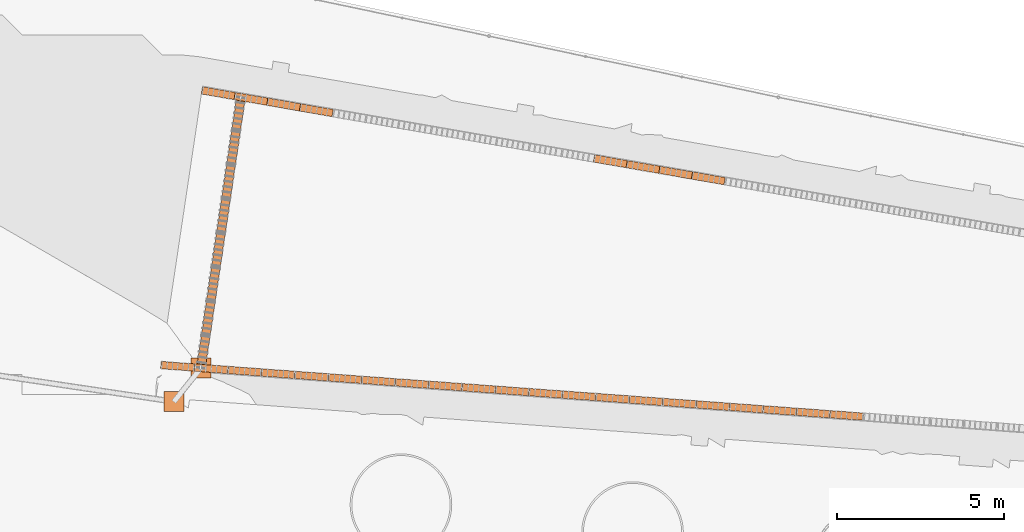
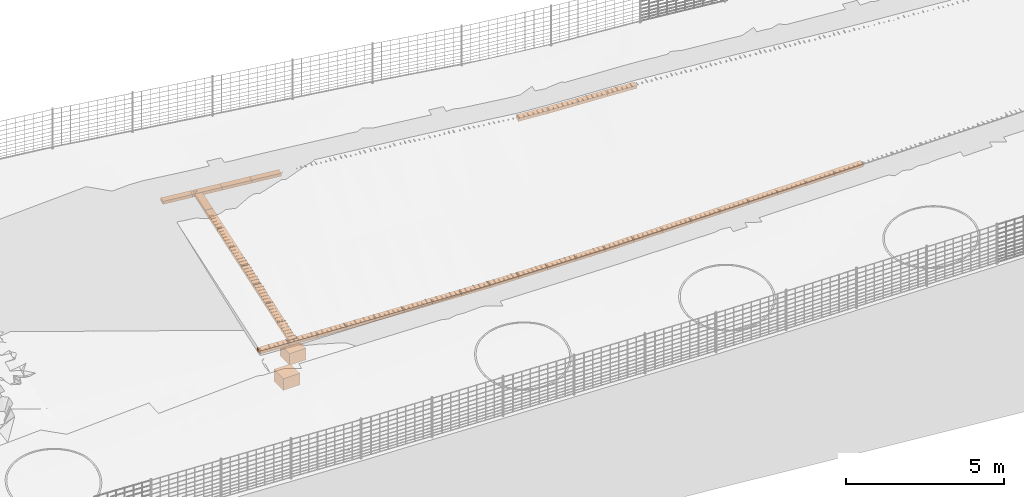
# Not in any storey, part 59 of 72: 39 proxies.
"""IFC4 model written with IfcOpenShell, lengths in metres."""

from ifc_helpers import new_model, si_unit, direction, frame, origin_with_axes, place, context, subcontext, project, spatial, polyline, outline, extrude, polygons, material, element, save


model = new_model("IFC4")

# Units and contexts
model_context = context("Model", 3, precision=1e-05, world=origin_with_axes(), true_north=direction((0.0, 1.0)))
body_context = subcontext(model_context, "Body", "Model", "MODEL_VIEW")
ifc_project = project(units=[si_unit("AREAUNIT", "SQUARE_METRE"), si_unit("VOLUMEUNIT", "CUBIC_METRE"), si_unit("LENGTHUNIT", "METRE")], contexts=[model_context])

# Site
site_placement = place(None, origin_with_axes())
site = spatial("IfcSite", under=ifc_project, at=site_placement, Name="Lares · Rua das Mercês · artigo 4771")

# Proxies
ifc_material_1 = material(Name="Brita drenante", Category="stone")
proxy_1_placement = place(site_placement, frame((0.0, 0.0, 0.0), z_axis=(0.0, 0.0, 1.0), x_axis=(1.0, -1.03767253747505e-17, 0.0)))
element("IfcBuildingElementProxy", 1, at=proxy_1_placement, inside=site, material=ifc_material_1, Name="Acesso · dreno lateral raso · leito drenante", ObjectType="Acesso · dreno lateral raso · leito drenante", PredefinedType="USERDEFINED", context=body_context, shape_type="Tessellation", body=[
    polygons([(46.6482466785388, 3.22123674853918, 14.3686), (46.6643740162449, 3.44064483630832, 14.3686), (47.6685459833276, 3.36683433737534, 14.37386763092), (47.6524186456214, 3.14742624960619, 14.37386763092), (46.6482466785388, 3.22123674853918, 14.4836), (46.6643740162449, 3.44064483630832, 14.4836), (47.6685459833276, 3.36683433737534, 14.48886763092), (47.6524186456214, 3.14742624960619, 14.48886763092)], [[[4, 3, 2, 1]], [[5, 6, 7, 8]], [[1, 2, 6, 5]], [[2, 3, 7, 6]], [[3, 4, 8, 7]], [[4, 1, 5, 8]]]),
])
proxy_2_placement = place(site_placement, frame((0.0, 0.0, 0.0), z_axis=(0.0, 0.0, 1.0), x_axis=(1.0, -1.03767253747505e-17, 0.0)))
element("IfcBuildingElementProxy", 2, at=proxy_2_placement, inside=site, material=ifc_material_1, Name="Acesso · dreno lateral raso · leito drenante", ObjectType="Acesso · dreno lateral raso · leito drenante", PredefinedType="USERDEFINED", context=body_context, shape_type="Tessellation", body=[
    polygons([(47.6524186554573, 3.14742624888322, 14.37386763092), (47.6685459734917, 3.36683433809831, 14.37386763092), (48.6727146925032, 3.29302416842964, 14.3809826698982), (48.6565873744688, 3.07361607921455, 14.3809826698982), (47.6524186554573, 3.14742624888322, 14.48886763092), (47.6685459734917, 3.36683433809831, 14.48886763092), (48.6727146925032, 3.29302416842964, 14.4959826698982), (48.6565873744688, 3.07361607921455, 14.4959826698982)], [[[4, 3, 2, 1]], [[5, 6, 7, 8]], [[1, 2, 6, 5]], [[2, 3, 7, 6]], [[3, 4, 8, 7]], [[4, 1, 5, 8]]]),
])
proxy_3_placement = place(site_placement, frame((0.0, 0.0, 0.0), z_axis=(0.0, 0.0, 1.0), x_axis=(1.0, -1.03767253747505e-17, 0.0)))
element("IfcBuildingElementProxy", 3, at=proxy_3_placement, inside=site, material=ifc_material_1, Name="Acesso · dreno lateral raso · leito drenante", ObjectType="Acesso · dreno lateral raso · leito drenante", PredefinedType="USERDEFINED", context=body_context, shape_type="Tessellation", body=[
    polygons([(48.656587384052, 3.07361607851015, 14.3809826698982), (48.67271468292, 3.29302416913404, 14.3809826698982), (49.6768800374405, 3.2192143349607, 14.3899451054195), (49.6607527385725, 2.99980624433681, 14.3899451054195), (48.656587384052, 3.07361607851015, 14.4959826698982), (48.67271468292, 3.29302416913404, 14.4959826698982), (49.6768800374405, 3.2192143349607, 14.5049451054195), (49.6607527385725, 2.99980624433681, 14.5049451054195)], [[[4, 3, 2, 1]], [[5, 6, 7, 8]], [[1, 2, 6, 5]], [[2, 3, 7, 6]], [[3, 4, 8, 7]], [[4, 1, 5, 8]]]),
])
proxy_4_placement = place(site_placement, frame((0.0, 0.0, 0.0), z_axis=(0.0, 0.0, 1.0), x_axis=(1.0, -1.03767253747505e-17, 0.0)))
element("IfcBuildingElementProxy", 4, at=proxy_4_placement, inside=site, material=ifc_material_1, Name="Acesso · dreno lateral raso · leito drenante", ObjectType="Acesso · dreno lateral raso · leito drenante", PredefinedType="USERDEFINED", context=body_context, shape_type="Tessellation", body=[
    polygons([(49.6607527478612, 2.99980624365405, 14.3899451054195), (49.6768800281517, 3.21921433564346, 14.3899451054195), (50.6810418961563, 3.14540484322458, 14.4007549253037), (50.6649146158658, 2.92599675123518, 14.4007549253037), (49.6607527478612, 2.99980624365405, 14.5049451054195), (49.6768800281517, 3.21921433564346, 14.5049451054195), (50.6810418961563, 3.14540484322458, 14.5157549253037), (50.6649146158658, 2.92599675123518, 14.5157549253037)], [[[4, 3, 2, 1]], [[5, 6, 7, 8]], [[1, 2, 6, 5]], [[2, 3, 7, 6]], [[3, 4, 8, 7]], [[4, 1, 5, 8]]]),
])
proxy_5_placement = place(site_placement, frame((0.0, 0.0, 0.0), z_axis=(0.0, 0.0, 1.0), x_axis=(1.0, -1.03767253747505e-17, 0.0)))
element("IfcBuildingElementProxy", 5, at=proxy_5_placement, inside=site, material=ifc_material_1, Name="Acesso · dreno lateral raso · leito drenante", ObjectType="Acesso · dreno lateral raso · leito drenante", PredefinedType="USERDEFINED", context=body_context, shape_type="Tessellation", body=[
    polygons([(50.664914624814, 2.92599675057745, 14.4007549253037), (50.681041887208, 3.14540484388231, 14.4007549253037), (51.6852001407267, 3.0715956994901, 14.413412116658), (51.6690728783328, 2.85218760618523, 14.413412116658), (50.664914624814, 2.92599675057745, 14.5157549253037), (50.681041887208, 3.14540484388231, 14.5157549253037), (51.6852001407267, 3.0715956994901, 14.528412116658), (51.6690728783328, 2.85218760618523, 14.528412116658)], [[[4, 3, 2, 1]], [[5, 6, 7, 8]], [[1, 2, 6, 5]], [[2, 3, 7, 6]], [[3, 4, 8, 7]], [[4, 1, 5, 8]]]),
])
proxy_6_placement = place(site_placement, frame((0.0, 0.0, 0.0), z_axis=(0.0, 0.0, 1.0), x_axis=(1.0, -1.03767253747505e-17, 0.0)))
element("IfcBuildingElementProxy", 6, at=proxy_6_placement, inside=site, material=ifc_material_1, Name="Acesso · dreno lateral raso · leito drenante", ObjectType="Acesso · dreno lateral raso · leito drenante", PredefinedType="USERDEFINED", context=body_context, shape_type="Tessellation", body=[
    polygons([(51.6690728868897, 2.85218760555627, 14.413412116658), (51.6852001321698, 3.07159570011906, 14.413412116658), (52.6893546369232, 2.99778691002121, 14.4279166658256), (52.673227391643, 2.77837881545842, 14.4279166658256), (51.6690728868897, 2.85218760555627, 14.528412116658), (51.6852001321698, 3.07159570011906, 14.528412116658), (52.6893546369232, 2.99778691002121, 14.5429166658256), (52.673227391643, 2.77837881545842, 14.5429166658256)], [[[4, 3, 2, 1]], [[5, 6, 7, 8]], [[1, 2, 6, 5]], [[2, 3, 7, 6]], [[3, 4, 8, 7]], [[4, 1, 5, 8]]]),
])
proxy_7_placement = place(site_placement, frame((0.0, 0.0, 0.0), z_axis=(0.0, 0.0, 1.0), x_axis=(1.0, -1.03767253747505e-17, 0.0)))
element("IfcBuildingElementProxy", 7, at=proxy_7_placement, inside=site, material=ifc_material_1, Name="Acesso · dreno lateral raso · leito drenante", ObjectType="Acesso · dreno lateral raso · leito drenante", PredefinedType="USERDEFINED", context=body_context, shape_type="Tessellation", body=[
    polygons([(52.6732273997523, 2.77837881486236, 14.4279166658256), (52.6893546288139, 2.99778691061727, 14.4279166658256), (53.693505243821, 2.92397848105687, 14.4442685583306), (53.6773780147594, 2.70457038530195, 14.4442685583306), (52.6732273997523, 2.77837881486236, 14.5429166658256), (52.6893546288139, 2.99778691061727, 14.5429166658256), (53.693505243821, 2.92397848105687, 14.5592685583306), (53.6773780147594, 2.70457038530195, 14.5592685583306)], [[[4, 3, 2, 1]], [[5, 6, 7, 8]], [[1, 2, 6, 5]], [[2, 3, 7, 6]], [[3, 4, 8, 7]], [[4, 1, 5, 8]]]),
])
proxy_8_placement = place(site_placement, frame((0.0, 0.0, 0.0), z_axis=(0.0, 0.0, 1.0), x_axis=(1.0, -1.03767253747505e-17, 0.0)))
element("IfcBuildingElementProxy", 8, at=proxy_8_placement, inside=site, material=ifc_material_1, Name="Acesso · dreno lateral raso · leito drenante", ObjectType="Acesso · dreno lateral raso · leito drenante", PredefinedType="USERDEFINED", context=body_context, shape_type="Tessellation", body=[
    polygons([(53.6773780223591, 2.70457038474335, 14.4442685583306), (53.6935052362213, 2.92397848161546, 14.4442685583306), (54.6976518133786, 2.85017041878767, 14.4624677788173), (54.6815245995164, 2.63076232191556, 14.4624677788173), (53.6773780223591, 2.70457038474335, 14.5592685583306), (53.6935052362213, 2.92397848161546, 14.5592685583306), (54.6976518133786, 2.85017041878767, 14.5774677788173), (54.6815245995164, 2.63076232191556, 14.5774677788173)], [[[4, 3, 2, 1]], [[5, 6, 7, 8]], [[1, 2, 6, 5]], [[2, 3, 7, 6]], [[3, 4, 8, 7]], [[4, 1, 5, 8]]]),
])
proxy_9_placement = place(site_placement, frame((0.0, 0.0, 0.0), z_axis=(0.0, 0.0, 1.0), x_axis=(1.0, -1.03767253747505e-17, 0.0)))
element("IfcBuildingElementProxy", 9, at=proxy_9_placement, inside=site, material=ifc_material_1, Name="Acesso · dreno lateral raso · leito drenante", ObjectType="Acesso · dreno lateral raso · leito drenante", PredefinedType="USERDEFINED", context=body_context, shape_type="Tessellation", body=[
    polygons([(54.6815246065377, 2.63076232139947, 14.4624677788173), (54.6976518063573, 2.85017041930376, 14.4624677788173), (55.7017941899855, 2.77636272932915, 14.4979751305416), (55.685666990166, 2.55695463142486, 14.4979751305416), (54.6815246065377, 2.63076232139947, 14.5774677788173), (54.6976518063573, 2.85017041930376, 14.5774677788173), (55.7017941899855, 2.77636272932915, 14.6129751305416), (55.685666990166, 2.55695463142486, 14.6129751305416)], [[[4, 3, 2, 1]], [[5, 6, 7, 8]], [[1, 2, 6, 5]], [[2, 3, 7, 6]], [[3, 4, 8, 7]], [[4, 1, 5, 8]]]),
])
proxy_10_placement = place(site_placement, frame((0.0, 0.0, 0.0), z_axis=(0.0, 0.0, 1.0), x_axis=(1.0, -1.03767253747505e-17, 0.0)))
element("IfcBuildingElementProxy", 10, at=proxy_10_placement, inside=site, material=ifc_material_1, Name="Acesso · dreno lateral raso · leito drenante", ObjectType="Acesso · dreno lateral raso · leito drenante", PredefinedType="USERDEFINED", context=body_context, shape_type="Tessellation", body=[
    polygons([(55.6856669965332, 2.55695463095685, 14.4979751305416), (55.7017941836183, 2.77636272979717, 14.4979751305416), (56.7059322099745, 2.70255541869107, 14.5334823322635), (56.6898050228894, 2.48314731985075, 14.5334823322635), (55.6856669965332, 2.55695463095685, 14.6129751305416), (55.7017941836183, 2.77636272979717, 14.6129751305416), (56.7059322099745, 2.70255541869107, 14.6484823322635), (56.6898050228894, 2.48314731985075, 14.6484823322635)], [[[4, 3, 2, 1]], [[5, 6, 7, 8]], [[1, 2, 6, 5]], [[2, 3, 7, 6]], [[3, 4, 8, 7]], [[4, 1, 5, 8]]]),
])
proxy_11_placement = place(site_placement, frame((0.0, 0.0, 0.0), z_axis=(0.0, 0.0, 1.0), x_axis=(1.0, -1.03767253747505e-17, 0.0)))
element("IfcBuildingElementProxy", 11, at=proxy_11_placement, inside=site, material=ifc_material_1, Name="Acesso · dreno lateral raso · leito drenante", ObjectType="Acesso · dreno lateral raso · leito drenante", PredefinedType="USERDEFINED", context=body_context, shape_type="Tessellation", body=[
    polygons([(56.6898050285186, 2.48314731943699, 14.5334823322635), (56.7059322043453, 2.70255541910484, 14.5334823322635), (57.7100657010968, 2.62874849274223, 14.5734079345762), (57.6939385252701, 2.40934039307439, 14.5734079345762), (56.6898050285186, 2.48314731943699, 14.6484823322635), (56.7059322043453, 2.70255541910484, 14.6484823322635), (57.7100657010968, 2.62874849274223, 14.6884079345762), (57.6939385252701, 2.40934039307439, 14.6884079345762)], [[[4, 3, 2, 1]], [[5, 6, 7, 8]], [[1, 2, 6, 5]], [[2, 3, 7, 6]], [[3, 4, 8, 7]], [[4, 1, 5, 8]]]),
])
proxy_12_placement = place(site_placement, frame((0.0, 0.0, 0.0), z_axis=(0.0, 0.0, 1.0), x_axis=(1.0, -1.03767253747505e-17, 0.0)))
element("IfcBuildingElementProxy", 12, at=proxy_12_placement, inside=site, material=ifc_material_1, Name="Acesso · dreno lateral raso · leito drenante", ObjectType="Acesso · dreno lateral raso · leito drenante", PredefinedType="USERDEFINED", context=body_context, shape_type="Tessellation", body=[
    polygons([(57.6939385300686, 2.40934039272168, 14.5734079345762), (57.7100656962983, 2.62874849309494, 14.5734079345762), (58.7141944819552, 2.55494195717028, 14.6149596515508), (58.6980673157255, 2.33553385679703, 14.6149596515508), (57.6939385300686, 2.40934039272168, 14.6884079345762), (57.7100656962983, 2.62874849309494, 14.6884079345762), (58.7141944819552, 2.55494195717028, 14.7299596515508), (58.6980673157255, 2.33553385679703, 14.7299596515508)], [[[4, 3, 2, 1]], [[5, 6, 7, 8]], [[1, 2, 6, 5]], [[2, 3, 7, 6]], [[3, 4, 8, 7]], [[4, 1, 5, 8]]]),
])
proxy_13_placement = place(site_placement, frame((0.0, 0.0, 0.0), z_axis=(0.0, 0.0, 1.0), x_axis=(1.0, -1.03767253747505e-17, 0.0)))
element("IfcBuildingElementProxy", 13, at=proxy_13_placement, inside=site, material=ifc_material_1, Name="Acesso · dreno lateral raso · leito drenante", ObjectType="Acesso · dreno lateral raso · leito drenante", PredefinedType="USERDEFINED", context=body_context, shape_type="Tessellation", body=[
    polygons([(58.6980673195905, 2.33553385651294, 14.6149596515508), (58.7141944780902, 2.55494195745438, 14.6149596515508), (59.7183183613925, 2.48113581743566, 14.6721751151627), (59.7021912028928, 2.26172771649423, 14.6721751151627), (58.6980673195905, 2.33553385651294, 14.7299596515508), (58.7141944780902, 2.55494195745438, 14.7299596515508), (59.7183183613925, 2.48113581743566, 14.7871751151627), (59.7021912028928, 2.26172771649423, 14.7871751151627)], [[[4, 3, 2, 1]], [[5, 6, 7, 8]], [[1, 2, 6, 5]], [[2, 3, 7, 6]], [[3, 4, 8, 7]], [[4, 1, 5, 8]]]),
])
proxy_14_placement = place(site_placement, frame((0.0, 0.0, 0.0), z_axis=(0.0, 0.0, 1.0), x_axis=(1.0, -1.03767253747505e-17, 0.0)))
element("IfcBuildingElementProxy", 14, at=proxy_14_placement, inside=site, material=ifc_material_1, Name="Acesso · dreno lateral raso · leito drenante", ObjectType="Acesso · dreno lateral raso · leito drenante", PredefinedType="USERDEFINED", context=body_context, shape_type="Tessellation", body=[
    polygons([(59.7021912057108, 2.2617277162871, 14.6721751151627), (59.7183183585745, 2.48113581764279, 14.6721751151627), (60.7224371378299, 2.40733007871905, 14.7304839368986), (60.7063099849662, 2.18792197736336, 14.7304839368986), (59.7021912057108, 2.2617277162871, 14.7871751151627), (59.7183183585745, 2.48113581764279, 14.7871751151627), (60.7224371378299, 2.40733007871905, 14.8454839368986), (60.7063099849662, 2.18792197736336, 14.8454839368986)], [[[4, 3, 2, 1]], [[5, 6, 7, 8]], [[1, 2, 6, 5]], [[2, 3, 7, 6]], [[3, 4, 8, 7]], [[4, 1, 5, 8]]]),
])
proxy_15_placement = place(site_placement, frame((0.0, 0.0, 0.0), z_axis=(0.0, 0.0, 1.0), x_axis=(1.0, -1.03767253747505e-17, 0.0)))
element("IfcBuildingElementProxy", 15, at=proxy_15_placement, inside=site, material=ifc_material_1, Name="Acesso · dreno lateral raso · leito drenante", ObjectType="Acesso · dreno lateral raso · leito drenante", PredefinedType="USERDEFINED", context=body_context, shape_type="Tessellation", body=[
    polygons([(60.7063099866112, 2.18792197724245, 14.7304839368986), (60.722437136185, 2.40733007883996, 14.7304839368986), (61.7265505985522, 2.33352474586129, 14.7887924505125), (61.7104234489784, 2.11411664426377, 14.7887924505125), (60.7063099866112, 2.18792197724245, 14.8454839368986), (60.722437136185, 2.40733007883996, 14.8454839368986), (61.7265505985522, 2.33352474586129, 14.9037924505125), (61.7104234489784, 2.11411664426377, 14.9037924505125)], [[[4, 3, 2, 1]], [[5, 6, 7, 8]], [[1, 2, 6, 5]], [[2, 3, 7, 6]], [[3, 4, 8, 7]], [[4, 1, 5, 8]]]),
])
proxy_16_placement = place(site_placement, frame((0.0, 0.0, 0.0), z_axis=(0.0, 0.0, 1.0), x_axis=(1.0, -1.03767253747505e-17, 0.0)))
element("IfcBuildingElementProxy", 16, at=proxy_16_placement, inside=site, material=ifc_material_1, Name="Acesso · dreno lateral raso · leito drenante", ObjectType="Acesso · dreno lateral raso · leito drenante", PredefinedType="USERDEFINED", context=body_context, shape_type="Tessellation", body=[
    polygons([(61.7104234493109, 2.11411664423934, 14.7887924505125), (61.7265505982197, 2.33352474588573, 14.7887924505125), (62.7306585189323, 2.25971982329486, 14.8471006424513), (62.7145313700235, 2.04031172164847, 14.8471006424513), (61.7104234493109, 2.11411664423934, 14.9037924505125), (61.7265505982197, 2.33352474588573, 14.9037924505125), (62.7306585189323, 2.25971982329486, 14.9621006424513), (62.7145313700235, 2.04031172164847, 14.9621006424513)], [[[4, 3, 2, 1]], [[5, 6, 7, 8]], [[1, 2, 6, 5]], [[2, 3, 7, 6]], [[3, 4, 8, 7]], [[4, 1, 5, 8]]]),
])
proxy_17_placement = place(site_placement, frame((0.0, 0.0, 0.0), z_axis=(0.0, 0.0, 1.0), x_axis=(1.0, -1.03767253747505e-17, 0.0)))
element("IfcBuildingElementProxy", 17, at=proxy_17_placement, inside=site, material=ifc_material_1, Name="Acesso · dreno lateral raso · leito drenante", ObjectType="Acesso · dreno lateral raso · leito drenante", PredefinedType="USERDEFINED", context=body_context, shape_type="Tessellation", body=[
    polygons([(62.7145313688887, 2.04031172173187, 14.8471006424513), (62.7306585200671, 2.25971982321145, 14.8471006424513), (63.7347606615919, 2.18591531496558, 14.9054084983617), (63.7186335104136, 1.96650721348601, 14.9054084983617), (62.7145313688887, 2.04031172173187, 14.9621006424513), (62.7306585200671, 2.25971982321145, 14.9621006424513), (63.7347606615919, 2.18591531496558, 15.0204084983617), (63.7186335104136, 1.96650721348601, 15.0204084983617)], [[[4, 3, 2, 1]], [[5, 6, 7, 8]], [[1, 2, 6, 5]], [[2, 3, 7, 6]], [[3, 4, 8, 7]], [[4, 1, 5, 8]]]),
])
proxy_18_placement = place(site_placement, frame((0.0, 0.0, 0.0), z_axis=(0.0, 0.0, 1.0), x_axis=(1.0, -1.03767253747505e-17, 0.0)))
element("IfcBuildingElementProxy", 18, at=proxy_18_placement, inside=site, material=ifc_material_1, Name="Acesso · dreno lateral raso · leito drenante", ObjectType="Acesso · dreno lateral raso · leito drenante", PredefinedType="USERDEFINED", context=body_context, shape_type="Tessellation", body=[
    polygons([(63.7186335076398, 1.96650721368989, 14.9054084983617), (63.7347606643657, 2.1859153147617, 14.9054084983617), (64.7388567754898, 2.11211122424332, 14.9637160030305), (64.7227296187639, 1.89270312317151, 14.9637160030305), (63.7186335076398, 1.96650721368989, 15.0204084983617), (63.7347606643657, 2.1859153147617, 15.0204084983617), (64.7388567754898, 2.11211122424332, 15.0787160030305), (64.7227296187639, 1.89270312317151, 15.0787160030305)], [[[4, 3, 2, 1]], [[5, 6, 7, 8]], [[1, 2, 6, 5]], [[2, 3, 7, 6]], [[3, 4, 8, 7]], [[4, 1, 5, 8]]]),
])
proxy_19_placement = place(site_placement, frame((0.0, 0.0, 0.0), z_axis=(0.0, 0.0, 1.0), x_axis=(1.0, -1.03767253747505e-17, 0.0)))
element("IfcBuildingElementProxy", 19, at=proxy_19_placement, inside=site, material=ifc_material_1, Name="Acesso · dreno lateral raso · leito drenante", ObjectType="Acesso · dreno lateral raso · leito drenante", PredefinedType="USERDEFINED", context=body_context, shape_type="Tessellation", body=[
    polygons([(64.7227296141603, 1.89270312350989, 14.9637160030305), (64.7388567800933, 2.11211122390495, 14.9637160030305), (65.7429465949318, 2.03830755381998, 15.0220231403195), (65.7268194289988, 1.81889945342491, 15.0220231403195), (64.7227296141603, 1.89270312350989, 15.0787160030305), (64.7388567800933, 2.11211122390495, 15.0787160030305), (65.7429465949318, 2.03830755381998, 15.1370231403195), (65.7268194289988, 1.81889945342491, 15.1370231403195)], [[[4, 3, 2, 1]], [[5, 6, 7, 8]], [[1, 2, 6, 5]], [[2, 3, 7, 6]], [[3, 4, 8, 7]], [[4, 1, 5, 8]]]),
])
proxy_20_placement = place(site_placement, frame((0.0, 0.0, 0.0), z_axis=(0.0, 0.0, 1.0), x_axis=(1.0, -1.03767253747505e-17, 0.0)))
element("IfcBuildingElementProxy", 20, at=proxy_20_placement, inside=site, material=ifc_material_1, Name="Acesso · dreno lateral raso · leito drenante", ObjectType="Acesso · dreno lateral raso · leito drenante", PredefinedType="USERDEFINED", context=body_context, shape_type="Tessellation", body=[
    polygons([(65.7268194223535, 1.81889945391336, 15.0220231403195), (65.7429466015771, 2.03830755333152, 15.0220231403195), (66.7470298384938, 1.96450430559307, 15.0817041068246), (66.7309026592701, 1.74509620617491, 15.0817041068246), (65.7268194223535, 1.81889945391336, 15.1370231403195), (65.7429466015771, 2.03830755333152, 15.1370231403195), (66.7470298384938, 1.96450430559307, 15.1967041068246), (66.7309026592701, 1.74509620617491, 15.1967041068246)], [[[4, 3, 2, 1]], [[5, 6, 7, 8]], [[1, 2, 6, 5]], [[2, 3, 7, 6]], [[3, 4, 8, 7]], [[4, 1, 5, 8]]]),
])
proxy_21_placement = place(site_placement, frame((0.0, 0.0, 0.0), z_axis=(0.0, 0.0, 1.0), x_axis=(1.0, -1.03767253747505e-17, 0.0)))
element("IfcBuildingElementProxy", 21, at=proxy_21_placement, inside=site, material=ifc_material_1, Name="Acesso · dreno lateral raso · leito drenante", ObjectType="Acesso · dreno lateral raso · leito drenante", PredefinedType="USERDEFINED", context=body_context, shape_type="Tessellation", body=[
    polygons([(66.7309026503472, 1.74509620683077, 15.0817041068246), (66.7470298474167, 1.96450430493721, 15.0817041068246), (67.7511062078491, 1.89070148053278, 15.1414441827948), (67.7349790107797, 1.67129338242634, 15.1414441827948), (66.7309026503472, 1.74509620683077, 15.1967041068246), (66.7470298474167, 1.96450430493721, 15.1967041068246), (67.7511062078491, 1.89070148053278, 15.2564441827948), (67.7349790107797, 1.67129338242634, 15.2564441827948)], [[[4, 3, 2, 1]], [[5, 6, 7, 8]], [[1, 2, 6, 5]], [[2, 3, 7, 6]], [[3, 4, 8, 7]], [[4, 1, 5, 8]]]),
])
proxy_22_placement = place(site_placement, frame((0.0, 0.0, 0.0), z_axis=(0.0, 0.0, 1.0), x_axis=(1.0, -1.03767253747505e-17, 0.0)))
element("IfcBuildingElementProxy", 22, at=proxy_22_placement, inside=site, material=ifc_material_1, Name="Acesso · dreno lateral raso · leito drenante", ObjectType="Acesso · dreno lateral raso · leito drenante", PredefinedType="USERDEFINED", context=body_context, shape_type="Tessellation", body=[
    polygons([(47.8702143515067, 11.4709561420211, 14.7022), (47.9078673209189, 11.6877100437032, 14.7022), (48.8887310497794, 11.5173212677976, 14.7352470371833), (48.8510780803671, 11.3005673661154, 14.7352470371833), (47.8702143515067, 11.4709561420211, 14.8172), (47.9078673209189, 11.6877100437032, 14.8172), (48.8887310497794, 11.5173212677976, 14.8502470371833), (48.8510780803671, 11.3005673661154, 14.8502470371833)], [[[4, 3, 2, 1]], [[5, 6, 7, 8]], [[1, 2, 6, 5]], [[2, 3, 7, 6]], [[3, 4, 8, 7]], [[4, 1, 5, 8]]]),
])
proxy_23_placement = place(site_placement, frame((0.0, 0.0, 0.0), z_axis=(0.0, 0.0, 1.0), x_axis=(1.0, -1.03767253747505e-17, 0.0)))
element("IfcBuildingElementProxy", 23, at=proxy_23_placement, inside=site, material=ifc_material_1, Name="Acesso · dreno lateral raso · leito drenante", ObjectType="Acesso · dreno lateral raso · leito drenante", PredefinedType="USERDEFINED", context=body_context, shape_type="Tessellation", body=[
    polygons([(48.8510781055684, 11.3005673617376, 14.7352470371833), (48.888731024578, 11.5173212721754, 14.7352470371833), (49.8695980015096, 11.3469321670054, 14.7684950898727), (49.8319450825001, 11.1301782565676, 14.7684950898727), (48.8510781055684, 11.3005673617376, 14.8502470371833), (48.888731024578, 11.5173212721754, 14.8502470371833), (49.8695980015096, 11.3469321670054, 14.8834950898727), (49.8319450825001, 11.1301782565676, 14.8834950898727)], [[[4, 3, 2, 1]], [[5, 6, 7, 8]], [[1, 2, 6, 5]], [[2, 3, 7, 6]], [[3, 4, 8, 7]], [[4, 1, 5, 8]]]),
])
proxy_24_placement = place(site_placement, frame((0.0, 0.0, 0.0), z_axis=(0.0, 0.0, 1.0), x_axis=(1.0, -1.03767253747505e-17, 0.0)))
element("IfcBuildingElementProxy", 24, at=proxy_24_placement, inside=site, material=ifc_material_1, Name="Acesso · dreno lateral raso · leito drenante", ObjectType="Acesso · dreno lateral raso · leito drenante", PredefinedType="USERDEFINED", context=body_context, shape_type="Tessellation", body=[
    polygons([(49.831945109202, 11.1301782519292, 14.7684950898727), (49.8695979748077, 11.3469321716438, 14.7684950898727), (50.8504683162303, 11.1765427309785, 14.8024229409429), (50.8128154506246, 10.9597888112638, 14.8024229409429), (49.831945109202, 11.1301782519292, 14.8834950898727), (49.8695979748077, 11.3469321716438, 14.8834950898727), (50.8504683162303, 11.1765427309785, 14.9174229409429), (50.8128154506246, 10.9597888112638, 14.9174229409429)], [[[4, 3, 2, 1]], [[5, 6, 7, 8]], [[1, 2, 6, 5]], [[2, 3, 7, 6]], [[3, 4, 8, 7]], [[4, 1, 5, 8]]]),
])
proxy_25_placement = place(site_placement, frame((0.0, 0.0, 0.0), z_axis=(0.0, 0.0, 1.0), x_axis=(1.0, -1.03767253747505e-17, 0.0)))
element("IfcBuildingElementProxy", 25, at=proxy_25_placement, inside=site, material=ifc_material_1, Name="Acesso · dreno lateral raso · leito drenante", ObjectType="Acesso · dreno lateral raso · leito drenante", PredefinedType="USERDEFINED", context=body_context, shape_type="Tessellation", body=[
    polygons([(50.8128154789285, 10.9597888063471, 14.8024229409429), (50.8504682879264, 11.1765427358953, 14.8024229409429), (51.8313421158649, 11.0061529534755, 14.833814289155), (51.7936893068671, 10.7893990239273, 14.833814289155), (50.8128154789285, 10.9597888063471, 14.9174229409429), (50.8504682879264, 11.1765427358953, 14.9174229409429), (51.8313421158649, 11.0061529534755, 14.948814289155), (51.7936893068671, 10.7893990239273, 14.948814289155)], [[[4, 3, 2, 1]], [[5, 6, 7, 8]], [[1, 2, 6, 5]], [[2, 3, 7, 6]], [[3, 4, 8, 7]], [[4, 1, 5, 8]]]),
])
proxy_26_placement = place(site_placement, frame((0.0, 0.0, 0.0), z_axis=(0.0, 0.0, 1.0), x_axis=(1.0, -1.03767253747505e-17, 0.0)))
element("IfcBuildingElementProxy", 26, at=proxy_26_placement, inside=site, material=ifc_material_1, Name="Acesso · dreno lateral raso · leito drenante", ObjectType="Acesso · dreno lateral raso · leito drenante", PredefinedType="USERDEFINED", context=body_context, shape_type="Tessellation", body=[
    polygons([(59.6408225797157, 9.42626765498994, 15.017504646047), (59.6784746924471, 9.64302170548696, 15.017504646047), (60.6593865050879, 9.47262857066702, 15.0796599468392), (60.6217343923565, 9.25587452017, 15.0796599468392), (59.6408225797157, 9.42626765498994, 15.132504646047), (59.6784746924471, 9.64302170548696, 15.132504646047), (60.6593865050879, 9.47262857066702, 15.1946599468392), (60.6217343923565, 9.25587452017, 15.1946599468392)], [[[4, 3, 2, 1]], [[5, 6, 7, 8]], [[1, 2, 6, 5]], [[2, 3, 7, 6]], [[3, 4, 8, 7]], [[4, 1, 5, 8]]]),
])
proxy_27_placement = place(site_placement, frame((0.0, 0.0, 0.0), z_axis=(0.0, 0.0, 1.0), x_axis=(1.0, -1.03767253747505e-17, 0.0)))
element("IfcBuildingElementProxy", 27, at=proxy_27_placement, inside=site, material=ifc_material_1, Name="Acesso · dreno lateral raso · leito drenante", ObjectType="Acesso · dreno lateral raso · leito drenante", PredefinedType="USERDEFINED", context=body_context, shape_type="Tessellation", body=[
    polygons([(60.6217344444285, 9.25587451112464, 15.0796599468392), (60.6593864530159, 9.47262857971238, 15.0796599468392), (61.6403033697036, 9.30223504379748, 15.1643376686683), (61.6026513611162, 9.08548097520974, 15.1643376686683), (60.6217344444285, 9.25587451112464, 15.1946599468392), (60.6593864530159, 9.47262857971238, 15.1946599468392), (61.6403033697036, 9.30223504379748, 15.2793376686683), (61.6026513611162, 9.08548097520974, 15.2793376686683)], [[[4, 3, 2, 1]], [[5, 6, 7, 8]], [[1, 2, 6, 5]], [[2, 3, 7, 6]], [[3, 4, 8, 7]], [[4, 1, 5, 8]]]),
])
proxy_28_placement = place(site_placement, frame((0.0, 0.0, 0.0), z_axis=(0.0, 0.0, 1.0), x_axis=(1.0, -1.03767253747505e-17, 0.0)))
element("IfcBuildingElementProxy", 28, at=proxy_28_placement, inside=site, material=ifc_material_1, Name="Acesso · dreno lateral raso · leito drenante", ObjectType="Acesso · dreno lateral raso · leito drenante", PredefinedType="USERDEFINED", context=body_context, shape_type="Tessellation", body=[
    polygons([(61.6026514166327, 9.08548096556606, 15.1643376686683), (61.640303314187, 9.30223505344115, 15.1643376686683), (62.6212255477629, 9.13184111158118, 15.2521765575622), (62.5835736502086, 8.91508702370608, 15.2521765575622), (61.6026514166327, 9.08548096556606, 15.2793376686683), (61.640303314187, 9.30223505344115, 15.2793376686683), (62.6212255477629, 9.13184111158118, 15.3671765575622), (62.5835736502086, 8.91508702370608, 15.3671765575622)], [[[4, 3, 2, 1]], [[5, 6, 7, 8]], [[1, 2, 6, 5]], [[2, 3, 7, 6]], [[3, 4, 8, 7]], [[4, 1, 5, 8]]]),
])
proxy_29_placement = place(site_placement, frame((0.0, 0.0, 0.0), z_axis=(0.0, 0.0, 1.0), x_axis=(1.0, -1.03767253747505e-17, 0.0)))
element("IfcBuildingElementProxy", 29, at=proxy_29_placement, inside=site, material=ifc_material_1, Name="Acesso · dreno lateral raso · leito drenante", ObjectType="Acesso · dreno lateral raso · leito drenante", PredefinedType="USERDEFINED", context=body_context, shape_type="Tessellation", body=[
    polygons([(62.5835737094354, 8.91508701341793, 15.2521765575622), (62.621225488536, 9.13184112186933, 15.2521765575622), (63.6021532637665, 8.96144676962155, 15.3300349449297), (63.5645014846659, 8.74469266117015, 15.3300349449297), (62.5835737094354, 8.91508701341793, 15.3671765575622), (62.621225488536, 9.13184112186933, 15.3671765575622), (63.6021532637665, 8.96144676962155, 15.4450349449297), (63.5645014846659, 8.74469266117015, 15.4450349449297)], [[[4, 3, 2, 1]], [[5, 6, 7, 8]], [[1, 2, 6, 5]], [[2, 3, 7, 6]], [[3, 4, 8, 7]], [[4, 1, 5, 8]]]),
])
proxy_30_placement = place(site_placement, frame((0.0, 0.0, 0.0), z_axis=(0.0, 0.0, 1.0), x_axis=(1.0, -1.03767253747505e-17, 0.0)))
element("IfcBuildingElementProxy", 30, at=proxy_30_placement, inside=site, material=ifc_material_1, Name="Interceção · caleira estacionamento · leito drenante", ObjectType="Interceção · caleira estacionamento · leito drenante", PredefinedType="USERDEFINED", context=body_context, shape_type="Tessellation", body=[
    polygons([(47.9855166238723, 3.19364159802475, 14.3737874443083), (47.7283234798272, 3.23174260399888, 14.3737874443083), (47.8800177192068, 4.25572392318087, 14.4205558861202), (48.1372108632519, 4.21762291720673, 14.4205558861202), (47.9855166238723, 3.19364159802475, 14.4887874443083), (47.7283234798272, 3.23174260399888, 14.4887874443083), (47.8800177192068, 4.25572392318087, 14.5355558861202), (48.1372108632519, 4.21762291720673, 14.5355558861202)], [[[4, 3, 2, 1]], [[5, 6, 7, 8]], [[1, 2, 6, 5]], [[2, 3, 7, 6]], [[3, 4, 8, 7]], [[4, 1, 5, 8]]]),
])
proxy_31_placement = place(site_placement, frame((0.0, 0.0, 0.0), z_axis=(0.0, 0.0, 1.0), x_axis=(1.0, -1.03767253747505e-17, 0.0)))
element("IfcBuildingElementProxy", 31, at=proxy_31_placement, inside=site, material=ifc_material_1, Name="Interceção · caleira estacionamento · leito drenante", ObjectType="Interceção · caleira estacionamento · leito drenante", PredefinedType="USERDEFINED", context=body_context, shape_type="Tessellation", body=[
    polygons([(48.1372108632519, 4.21762291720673, 14.4205558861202), (47.8800177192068, 4.25572392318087, 14.4205558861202), (48.0317119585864, 5.27970524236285, 14.4665488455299), (48.2889051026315, 5.24160423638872, 14.4665488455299), (48.1372108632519, 4.21762291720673, 14.5355558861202), (47.8800177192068, 4.25572392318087, 14.5355558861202), (48.0317119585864, 5.27970524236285, 14.5815488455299), (48.2889051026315, 5.24160423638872, 14.5815488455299)], [[[4, 3, 2, 1]], [[5, 6, 7, 8]], [[1, 2, 6, 5]], [[2, 3, 7, 6]], [[3, 4, 8, 7]], [[4, 1, 5, 8]]]),
])
proxy_32_placement = place(site_placement, frame((0.0, 0.0, 0.0), z_axis=(0.0, 0.0, 1.0), x_axis=(1.0, -1.03767253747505e-17, 0.0)))
element("IfcBuildingElementProxy", 32, at=proxy_32_placement, inside=site, material=ifc_material_1, Name="Interceção · caleira estacionamento · leito drenante", ObjectType="Interceção · caleira estacionamento · leito drenante", PredefinedType="USERDEFINED", context=body_context, shape_type="Tessellation", body=[
    polygons([(48.2889051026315, 5.24160423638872, 14.4665488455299), (48.0317119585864, 5.27970524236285, 14.4665488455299), (48.1834061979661, 6.30368656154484, 14.5127531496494), (48.4405993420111, 6.2655855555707, 14.5127531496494), (48.2889051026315, 5.24160423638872, 14.5815488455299), (48.0317119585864, 5.27970524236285, 14.5815488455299), (48.1834061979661, 6.30368656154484, 14.6277531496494), (48.4405993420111, 6.2655855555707, 14.6277531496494)], [[[4, 3, 2, 1]], [[5, 6, 7, 8]], [[1, 2, 6, 5]], [[2, 3, 7, 6]], [[3, 4, 8, 7]], [[4, 1, 5, 8]]]),
])
proxy_33_placement = place(site_placement, frame((0.0, 0.0, 0.0), z_axis=(0.0, 0.0, 1.0), x_axis=(1.0, -1.03767253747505e-17, 0.0)))
element("IfcBuildingElementProxy", 33, at=proxy_33_placement, inside=site, material=ifc_material_1, Name="Interceção · caleira estacionamento · leito drenante", ObjectType="Interceção · caleira estacionamento · leito drenante", PredefinedType="USERDEFINED", context=body_context, shape_type="Tessellation", body=[
    polygons([(48.4405993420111, 6.2655855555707, 14.5127531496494), (48.1834061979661, 6.30368656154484, 14.5127531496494), (48.3351004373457, 7.32766788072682, 14.5589574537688), (48.5922935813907, 7.28956687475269, 14.5589574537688), (48.4405993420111, 6.2655855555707, 14.6277531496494), (48.1834061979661, 6.30368656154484, 14.6277531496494), (48.3351004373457, 7.32766788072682, 14.6739574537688), (48.5922935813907, 7.28956687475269, 14.6739574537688)], [[[4, 3, 2, 1]], [[5, 6, 7, 8]], [[1, 2, 6, 5]], [[2, 3, 7, 6]], [[3, 4, 8, 7]], [[4, 1, 5, 8]]]),
])
proxy_34_placement = place(site_placement, frame((0.0, 0.0, 0.0), z_axis=(0.0, 0.0, 1.0), x_axis=(1.0, -1.03767253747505e-17, 0.0)))
element("IfcBuildingElementProxy", 34, at=proxy_34_placement, inside=site, material=ifc_material_1, Name="Interceção · caleira estacionamento · leito drenante", ObjectType="Interceção · caleira estacionamento · leito drenante", PredefinedType="USERDEFINED", context=body_context, shape_type="Tessellation", body=[
    polygons([(48.5922935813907, 7.28956687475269, 14.5589574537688), (48.3351004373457, 7.32766788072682, 14.5589574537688), (48.4867946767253, 8.35164919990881, 14.6051617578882), (48.7439878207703, 8.31354819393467, 14.6051617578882), (48.5922935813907, 7.28956687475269, 14.6739574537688), (48.3351004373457, 7.32766788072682, 14.6739574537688), (48.4867946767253, 8.35164919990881, 14.7201617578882), (48.7439878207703, 8.31354819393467, 14.7201617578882)], [[[4, 3, 2, 1]], [[5, 6, 7, 8]], [[1, 2, 6, 5]], [[2, 3, 7, 6]], [[3, 4, 8, 7]], [[4, 1, 5, 8]]]),
])
proxy_35_placement = place(site_placement, frame((0.0, 0.0, 0.0), z_axis=(0.0, 0.0, 1.0), x_axis=(1.0, -1.03767253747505e-17, 0.0)))
element("IfcBuildingElementProxy", 35, at=proxy_35_placement, inside=site, material=ifc_material_1, Name="Interceção · caleira estacionamento · leito drenante", ObjectType="Interceção · caleira estacionamento · leito drenante", PredefinedType="USERDEFINED", context=body_context, shape_type="Tessellation", body=[
    polygons([(48.7439878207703, 8.31354819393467, 14.6051617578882), (48.4867946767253, 8.35164919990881, 14.6051617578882), (48.6384889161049, 9.37563051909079, 14.6513660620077), (48.8956820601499, 9.33752951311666, 14.6513660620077), (48.7439878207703, 8.31354819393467, 14.7201617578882), (48.4867946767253, 8.35164919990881, 14.7201617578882), (48.6384889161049, 9.37563051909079, 14.7663660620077), (48.8956820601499, 9.33752951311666, 14.7663660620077)], [[[4, 3, 2, 1]], [[5, 6, 7, 8]], [[1, 2, 6, 5]], [[2, 3, 7, 6]], [[3, 4, 8, 7]], [[4, 1, 5, 8]]]),
])
proxy_36_placement = place(site_placement, frame((0.0, 0.0, 0.0), z_axis=(0.0, 0.0, 1.0), x_axis=(1.0, -1.03767253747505e-17, 0.0)))
element("IfcBuildingElementProxy", 36, at=proxy_36_placement, inside=site, material=ifc_material_1, Name="Interceção · caleira estacionamento · leito drenante", ObjectType="Interceção · caleira estacionamento · leito drenante", PredefinedType="USERDEFINED", context=body_context, shape_type="Tessellation", body=[
    polygons([(48.8956820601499, 9.33752951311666, 14.6513660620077), (48.6384889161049, 9.37563051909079, 14.6513660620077), (48.7901831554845, 10.3996118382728, 14.6975703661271), (49.0473762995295, 10.3615108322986, 14.6975703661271), (48.8956820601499, 9.33752951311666, 14.7663660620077), (48.6384889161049, 9.37563051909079, 14.7663660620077), (48.7901831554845, 10.3996118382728, 14.8125703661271), (49.0473762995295, 10.3615108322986, 14.8125703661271)], [[[4, 3, 2, 1]], [[5, 6, 7, 8]], [[1, 2, 6, 5]], [[2, 3, 7, 6]], [[3, 4, 8, 7]], [[4, 1, 5, 8]]]),
])
proxy_37_placement = place(site_placement, frame((0.0, 0.0, 0.0), z_axis=(0.0, 0.0, 1.0), x_axis=(1.0, -1.03767253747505e-17, 0.0)))
element("IfcBuildingElementProxy", 37, at=proxy_37_placement, inside=site, material=ifc_material_1, Name="Interceção · caleira estacionamento · leito drenante", ObjectType="Interceção · caleira estacionamento · leito drenante", PredefinedType="USERDEFINED", context=body_context, shape_type="Tessellation", body=[
    polygons([(49.0473762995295, 10.3615108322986, 14.6975703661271), (48.7901831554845, 10.3996118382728, 14.6975703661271), (48.9418773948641, 11.4235931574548, 14.7426823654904), (49.1990705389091, 11.3854921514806, 14.7426823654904), (49.0473762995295, 10.3615108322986, 14.8125703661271), (48.7901831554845, 10.3996118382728, 14.8125703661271), (48.9418773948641, 11.4235931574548, 14.8576823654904), (49.1990705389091, 11.3854921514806, 14.8576823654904)], [[[4, 3, 2, 1]], [[5, 6, 7, 8]], [[1, 2, 6, 5]], [[2, 3, 7, 6]], [[3, 4, 8, 7]], [[4, 1, 5, 8]]]),
])
ifc_material_2 = material(Name="Caleiras · betão", Category="concrete")
proxy_38_placement = place(site_placement, frame((0.0, 0.0, 13.7860142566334), z_axis=(0.0, 0.0, 1.0), x_axis=(1.0, -1.03767253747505e-17, 0.0)))
element("IfcBuildingElementProxy", 38, at=proxy_38_placement, inside=site, material=ifc_material_2, Name="Acesso · caixa de retenção de sedimentos", ObjectType="Acesso · caixa de retenção de sedimentos", PredefinedType="USERDEFINED", context=body_context, shape_type="SweptSolid", body=[
    extrude(outline(polyline([(48.1613163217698, 2.94236823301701), (48.1613163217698, 3.54236823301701), (47.5613163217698, 3.54236823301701), (47.5613163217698, 2.94236823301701), (48.1613163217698, 2.94236823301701)])), origin_with_axes(), (0.0, 0.0, 1.0), 0.45),
])
proxy_39_placement = place(site_placement, frame((0.0, 0.0, 13.7174085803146), z_axis=(0.0, 0.0, 1.0), x_axis=(1.0, -1.03767253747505e-17, 0.0)))
element("IfcBuildingElementProxy", 39, at=proxy_39_placement, inside=site, material=ifc_material_2, Name="Acesso · caixa de retenção de sedimentos", ObjectType="Acesso · caixa de retenção de sedimentos", PredefinedType="USERDEFINED", context=body_context, shape_type="SweptSolid", body=[
    extrude(outline(polyline([(47.3480253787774, 1.93095927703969), (47.3480253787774, 2.53095927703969), (46.7480253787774, 2.53095927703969), (46.7480253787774, 1.93095927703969), (47.3480253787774, 1.93095927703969)])), origin_with_axes(), (0.0, 0.0, 1.0), 0.45),
])

save(model, "model.ifc")
